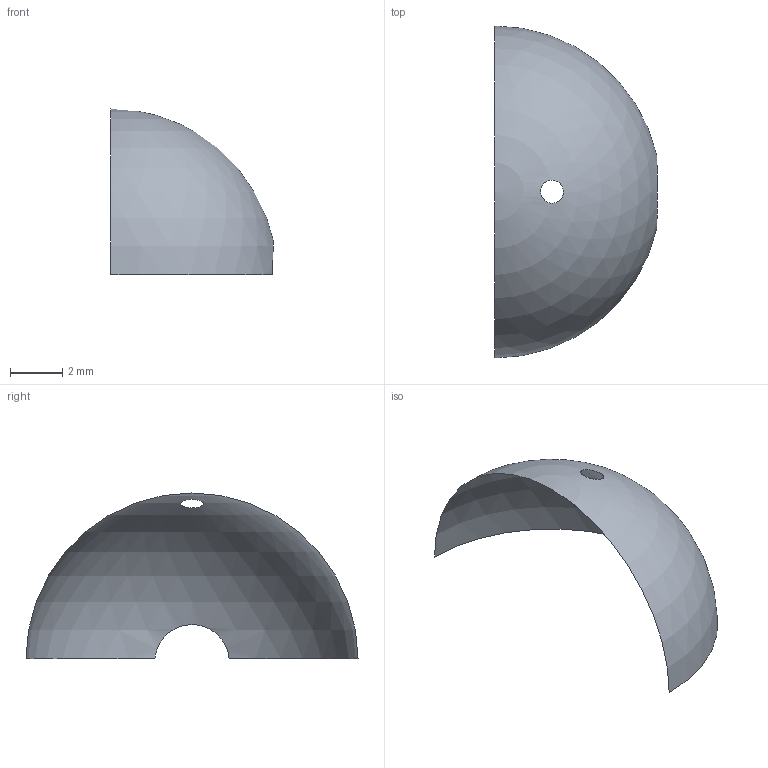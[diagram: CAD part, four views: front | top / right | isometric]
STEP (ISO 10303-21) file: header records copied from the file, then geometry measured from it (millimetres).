
FILE_DESCRIPTION(('BRL-CAD minimized periodic repair regression'),'2;1');
FILE_NAME('ap214_multiperiod_face_repair.stp','2026-07-24T00:00:00',('BRL-CAD'),('BRL-CAD'),'','','');
FILE_SCHEMA(('AUTOMOTIVE_DESIGN { 1 0 10303 214 3 1 1 1 }'));
Length unit declared in the file: millimetre
Products named in the file (1): multiperiod_face_repair
Bounding box: 6.21 x 12.69 x 6.34 mm (x, y, z)
Surface area: 122.9 mm2 (no closed solid volume)
Topology: 0 solids, 1 shells, 1 faces, 9 edges, 8 vertices
Faces by surface type: sphere 1
Entity records: 169 total; most frequent: CARTESIAN_POINT 109, DIRECTION 8, EDGE_CURVE 7, ORIENTED_EDGE 7, VERTEX_POINT 7, AXIS2_PLACEMENT_3D 4, B_SPLINE_CURVE_WITH_KNOTS 4, CIRCLE 3
